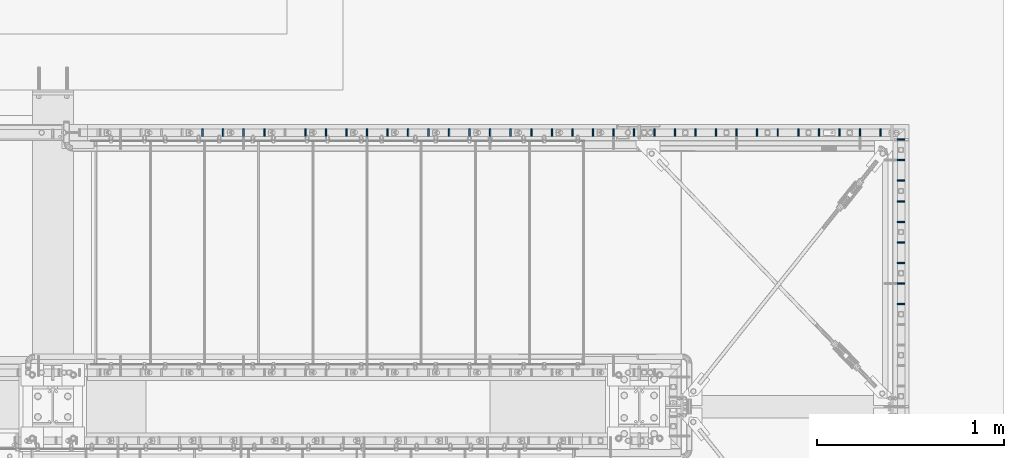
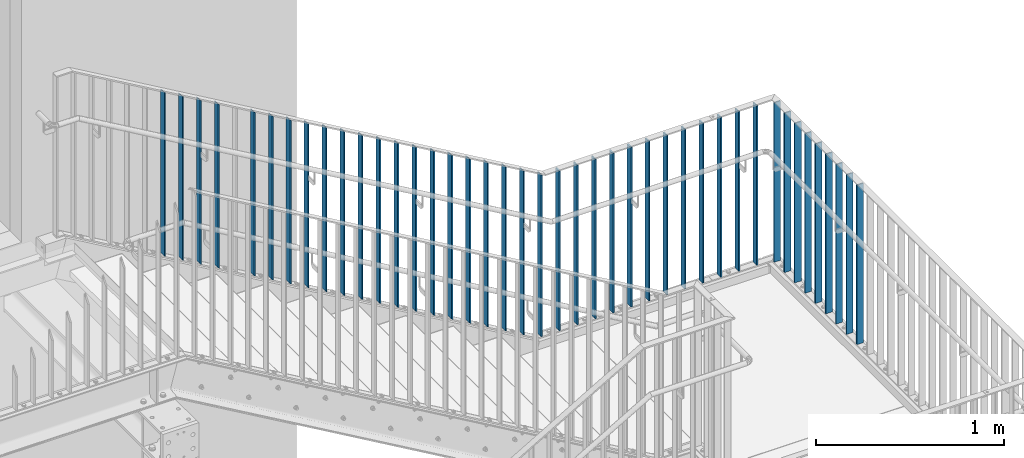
# One storey, part 4 of 145: 42 columns.
"""IFC2X3 building model written with IfcOpenShell, lengths in millimetres."""

from ifc_helpers import new_model, entity, si_unit, converted_unit, frame, origin, origin_with_axes, origin_2d, place, context, project, spatial, rectangle, extrude, clip, halfspace, material, element, save


model = new_model("IFC2X3")

# Units and contexts
model_context = context("Model", 3, precision=1e-09, world=origin_with_axes())
ifc_project = project(units=[si_unit("LENGTHUNIT", "METRE", prefix="MILLI"), si_unit("AREAUNIT", "SQUARE_METRE"), si_unit("VOLUMEUNIT", "CUBIC_METRE"), converted_unit("PLANEANGLEUNIT", "DEGREE", entity("IfcPlaneAngleMeasure", 0.01745329), si_unit("PLANEANGLEUNIT", "RADIAN"), dimensions=[0, 0, 0, 0, 0, 0, 0])], contexts=[model_context])

# Site, building, storey
site_placement = place(None, origin_with_axes())
site = spatial("IfcSite", under=ifc_project, at=site_placement, Name="BZ1 Grund- und Mittelschule 85716 Unterschlei?heim", CompositionType="ELEMENT")
building_placement = place(site_placement, origin_with_axes())
building = spatial("IfcBuilding", under=site, at=building_placement, Name="Struktur 1", CompositionType="ELEMENT")
storey_placement = place(building_placement, origin_with_axes())
storey = spatial("IfcBuildingStorey", under=building, at=storey_placement, Name="Default Storey", CompositionType="ELEMENT", Elevation=0.0)

# Columns
ifc_material = material(Name="S235JR")
for number, where, z_axis, x_axis in (
    (1, (21063.141490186, -227.502, 1621.636364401), (0.0, 0.0, 1.0), (1.0, 0.0, 0.0)),
    (2, (20953.141490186, -227.502, 1621.636364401), (0.0, 0.0, 1.0), (1.0, 0.0, 0.0)),
    (3, (20843.141490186, -227.502, 1621.636364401), (0.0, 0.0, 1.0), (1.0, 0.0, 0.0)),
    (4, (20733.141490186, -227.502, 1621.636364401), (0.0, 0.0, 1.0), (1.0, 0.0, 0.0)),
    (5, (20623.141490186, -227.502, 1621.636364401), (0.0, 0.0, 1.0), (1.0, 0.0, 0.0)),
    (6, (20513.141490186, -227.502, 1621.636364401), (0.0, 0.0, 1.0), (1.0, 0.0, 0.0)),
    (7, (20403.141490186, -227.502, 1621.636364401), (0.0, 0.0, 1.0), (1.0, 0.0, 0.0)),
    (8, (20293.141490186, -227.502, 1621.636364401), (0.0, 0.0, 1.0), (1.0, 0.0, 0.0)),
    (9, (21173.141490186, -227.502, 1621.636364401), (0.0, 0.0, 1.0), (1.0, 0.0, 0.0)),
    (10, (21283.141490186, -227.502, 1621.636364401), (0.0, 0.0, 1.0), (1.0, 0.0, 0.0)),
):
    element("IfcColumn", number, at=place(None, frame(where, z_axis=z_axis, x_axis=x_axis)), inside=storey, material=ifc_material, Name="-", ObjectType="-", context=model_context, shape_type="SweptSolid", body=[
        extrude(rectangle(XDim=8.0, YDim=40.0, at=origin_2d()), origin(), (0.0, 0.0, 1.0), 1033.999999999),
    ])
for number, where, z_axis, x_axis in (
    (11, (21613.34472732, -1035.002, 1621.636364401), (0.0, 0.0, -1.0), (0.0, 1.0, 0.0)),
    (12, (21613.34472732, -1145.002, 1621.636364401), (0.0, 0.0, -1.0), (0.0, 1.0, 0.0)),
    (13, (21613.34472732, -705.002, 1621.636364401), (0.0, 0.0, -1.0), (0.0, 1.0, 0.0)),
    (14, (21613.34472732, -815.002, 1621.636364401), (0.0, 0.0, -1.0), (0.0, 1.0, 0.0)),
    (15, (21613.34472732, -925.002, 1621.636364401), (0.0, 0.0, -1.0), (0.0, 1.0, 0.0)),
    (16, (21613.34472732, -375.002, 1621.636364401), (0.0, 0.0, -1.0), (0.0, 1.0, 0.0)),
    (17, (21613.34472732, -485.002, 1621.636364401), (0.0, 0.0, -1.0), (0.0, 1.0, 0.0)),
    (18, (21613.34472732, -595.002, 1621.636364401), (0.0, 0.0, -1.0), (0.0, 1.0, 0.0)),
    (19, (21613.34472732, -265.002, 1621.636364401), (0.0, 0.0, -1.0), (0.0, 1.0, 0.0)),
):
    element("IfcColumn", number, at=place(None, frame(where, z_axis=z_axis, x_axis=x_axis)), inside=storey, material=ifc_material, Name="-", ObjectType="-", context=model_context, shape_type="SweptSolid", body=[
        extrude(rectangle(XDim=8.0, YDim=40.0, at=origin_2d()), origin(), (0.0, 0.0, -1.0), 1033.999999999),
    ])
for number, where, z_axis, x_axis in (
    (20, (21393.141490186, -227.502, 1621.636364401), (0.0, 0.0, 1.0), (1.0, 0.0, 0.0)),
    (21, (21503.141490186, -227.502, 1621.636364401), (0.0, 0.0, 1.0), (1.0, 0.0, 0.0)),
):
    element("IfcColumn", number, at=place(None, frame(where, z_axis=z_axis, x_axis=x_axis)), inside=storey, material=ifc_material, Name="-", ObjectType="-", context=model_context, shape_type="SweptSolid", body=[
        extrude(rectangle(XDim=8.0, YDim=40.0, at=origin_2d()), origin(), (0.0, 0.0, 1.0), 1033.999999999),
    ])
column_1_placement = place(None, frame((18863.141490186, -227.502, 2350.839394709), z_axis=(0.0, 0.0, -1.0), x_axis=(-1.0, 0.0, 0.0)))
element("IfcColumn", 22, at=column_1_placement, inside=storey, material=ifc_material, Name="-", ObjectType="-", context=model_context, shape_type="Clipping", body=[
    clip(clip(extrude(rectangle(XDim=8.0, YDim=40.0, at=origin_2d()), origin(), (0.0, 0.0, -1.0), 1108.679153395), halfspace(frame((13064.623942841, 227.502, -7620.735255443), z_axis=(-0.502691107, 0.0, -0.864466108), x_axis=(0.0, 1.0, 0.0)), True)), halfspace(frame((12603.343827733, 227.502, -8413.987852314), z_axis=(0.502691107, 0.0, 0.864466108), x_axis=(0.0, -1.0, 0.0)), True)),
])
column_2_placement = place(None, frame((19413.141490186, -227.502, 2031.011808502), z_axis=(0.0, 0.0, -1.0), x_axis=(-1.0, 0.0, 0.0)))
element("IfcColumn", 23, at=column_2_placement, inside=storey, material=ifc_material, Name="-", ObjectType="-", context=model_context, shape_type="Clipping", body=[
    clip(clip(extrude(rectangle(XDim=8.0, YDim=40.0, at=origin_2d()), origin(), (0.0, 0.0, -1.0), 1108.679153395), halfspace(frame((13614.623942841, 227.502, -7940.56284165), z_axis=(-0.502691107, 0.0, -0.864466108), x_axis=(0.0, 1.0, 0.0)), True)), halfspace(frame((13153.343827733, 227.502, -8733.815438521), z_axis=(0.502691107, 0.0, 0.864466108), x_axis=(0.0, -1.0, 0.0)), True)),
])
column_3_placement = place(None, frame((19963.141490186, -227.502, 1711.184222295), z_axis=(0.0, 0.0, -1.0), x_axis=(-1.0, 0.0, 0.0)))
element("IfcColumn", 24, at=column_3_placement, inside=storey, material=ifc_material, Name="-", ObjectType="-", context=model_context, shape_type="Clipping", body=[
    clip(clip(extrude(rectangle(XDim=8.0, YDim=40.0, at=origin_2d()), origin(), (0.0, 0.0, -1.0), 1108.679153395), halfspace(frame((14164.623942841, 227.502, -8260.390427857), z_axis=(-0.502691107, 0.0, -0.864466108), x_axis=(0.0, 1.0, 0.0)), True)), halfspace(frame((13703.343827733, 227.502, -9053.643024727), z_axis=(0.502691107, 0.0, 0.864466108), x_axis=(0.0, -1.0, 0.0)), True)),
])
column_4_placement = place(None, frame((17873.141490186, -227.502, 2926.529049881), z_axis=(0.0, 0.0, -1.0), x_axis=(-1.0, 0.0, 0.0)))
element("IfcColumn", 25, at=column_4_placement, inside=storey, material=ifc_material, Name="-", ObjectType="-", context=model_context, shape_type="Clipping", body=[
    clip(clip(extrude(rectangle(XDim=8.0, YDim=40.0, at=origin_2d()), origin(), (0.0, 0.0, -1.0), 1108.679153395), halfspace(frame((12074.623942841, 227.502, -7045.045600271), z_axis=(-0.502691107, 0.0, -0.864466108), x_axis=(0.0, 1.0, 0.0)), True)), halfspace(frame((11613.343827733, 227.502, -7838.298197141), z_axis=(0.502691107, 0.0, 0.864466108), x_axis=(0.0, -1.0, 0.0)), True)),
])
column_5_placement = place(None, frame((20183.141490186, -227.502, 1621.636364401), z_axis=(0.0, 0.0, -1.0), x_axis=(-1.0, 0.0, 0.0)))
element("IfcColumn", 26, at=column_5_placement, inside=storey, material=ifc_material, Name="-", ObjectType="-", context=model_context, shape_type="Clipping", body=[
    clip(extrude(rectangle(XDim=8.0, YDim=40.0, at=origin_2d()), origin(), (0.0, 0.0, -1.0), 1070.295976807), halfspace(frame((13923.343827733, 227.502, -9143.190882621), z_axis=(0.502691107, 0.0, 0.864466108), x_axis=(0.0, -1.0, 0.0)), True)),
])
column_6_placement = place(None, frame((20073.141490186, -227.502, 1647.218705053), z_axis=(0.0, 0.0, -1.0), x_axis=(-1.0, 0.0, 0.0)))
element("IfcColumn", 27, at=column_6_placement, inside=storey, material=ifc_material, Name="-", ObjectType="-", context=model_context, shape_type="Clipping", body=[
    clip(clip(extrude(rectangle(XDim=8.0, YDim=40.0, at=origin_2d()), origin(), (0.0, 0.0, -1.0), 1108.679153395), halfspace(frame((14274.623942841, 227.502, -8324.355945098), z_axis=(-0.502691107, 0.0, -0.864466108), x_axis=(0.0, 1.0, 0.0)), True)), halfspace(frame((13813.343827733, 227.502, -9117.608541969), z_axis=(0.502691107, 0.0, 0.864466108), x_axis=(0.0, -1.0, 0.0)), True)),
])
column_7_placement = place(None, frame((19853.141490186, -227.502, 1775.149739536), z_axis=(0.0, 0.0, -1.0), x_axis=(-1.0, 0.0, 0.0)))
element("IfcColumn", 28, at=column_7_placement, inside=storey, material=ifc_material, Name="-", ObjectType="-", context=model_context, shape_type="Clipping", body=[
    clip(clip(extrude(rectangle(XDim=8.0, YDim=40.0, at=origin_2d()), origin(), (0.0, 0.0, -1.0), 1108.679153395), halfspace(frame((14054.623942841, 227.502, -8196.424910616), z_axis=(-0.502691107, 0.0, -0.864466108), x_axis=(0.0, 1.0, 0.0)), True)), halfspace(frame((13593.343827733, 227.502, -8989.677507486), z_axis=(0.502691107, 0.0, 0.864466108), x_axis=(0.0, -1.0, 0.0)), True)),
])
column_8_placement = place(None, frame((19743.141490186, -227.502, 1839.115256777), z_axis=(0.0, 0.0, -1.0), x_axis=(-1.0, 0.0, 0.0)))
element("IfcColumn", 29, at=column_8_placement, inside=storey, material=ifc_material, Name="-", ObjectType="-", context=model_context, shape_type="Clipping", body=[
    clip(clip(extrude(rectangle(XDim=8.0, YDim=40.0, at=origin_2d()), origin(), (0.0, 0.0, -1.0), 1108.679153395), halfspace(frame((13944.623942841, 227.502, -8132.459393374), z_axis=(-0.502691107, 0.0, -0.864466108), x_axis=(0.0, 1.0, 0.0)), True)), halfspace(frame((13483.343827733, 227.502, -8925.711990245), z_axis=(0.502691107, 0.0, 0.864466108), x_axis=(0.0, -1.0, 0.0)), True)),
])
column_9_placement = place(None, frame((19633.141490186, -227.502, 1903.080774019), z_axis=(0.0, 0.0, -1.0), x_axis=(-1.0, 0.0, 0.0)))
element("IfcColumn", 30, at=column_9_placement, inside=storey, material=ifc_material, Name="-", ObjectType="-", context=model_context, shape_type="Clipping", body=[
    clip(clip(extrude(rectangle(XDim=8.0, YDim=40.0, at=origin_2d()), origin(), (0.0, 0.0, -1.0), 1108.679153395), halfspace(frame((13834.623942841, 227.502, -8068.493876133), z_axis=(-0.502691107, 0.0, -0.864466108), x_axis=(0.0, 1.0, 0.0)), True)), halfspace(frame((13373.343827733, 227.502, -8861.746473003), z_axis=(0.502691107, 0.0, 0.864466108), x_axis=(0.0, -1.0, 0.0)), True)),
])
column_10_placement = place(None, frame((19523.141490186, -227.502, 1967.04629126), z_axis=(0.0, 0.0, -1.0), x_axis=(-1.0, 0.0, 0.0)))
element("IfcColumn", 31, at=column_10_placement, inside=storey, material=ifc_material, Name="-", ObjectType="-", context=model_context, shape_type="Clipping", body=[
    clip(clip(extrude(rectangle(XDim=8.0, YDim=40.0, at=origin_2d()), origin(), (0.0, 0.0, -1.0), 1108.679153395), halfspace(frame((13724.623942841, 227.502, -8004.528358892), z_axis=(-0.502691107, 0.0, -0.864466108), x_axis=(0.0, 1.0, 0.0)), True)), halfspace(frame((13263.343827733, 227.502, -8797.780955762), z_axis=(0.502691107, 0.0, 0.864466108), x_axis=(0.0, -1.0, 0.0)), True)),
])
column_11_placement = place(None, frame((19303.141490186, -227.502, 2094.977325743), z_axis=(0.0, 0.0, -1.0), x_axis=(-1.0, 0.0, 0.0)))
element("IfcColumn", 32, at=column_11_placement, inside=storey, material=ifc_material, Name="-", ObjectType="-", context=model_context, shape_type="Clipping", body=[
    clip(clip(extrude(rectangle(XDim=8.0, YDim=40.0, at=origin_2d()), origin(), (0.0, 0.0, -1.0), 1108.679153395), halfspace(frame((13504.623942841, 227.502, -7876.597324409), z_axis=(-0.502691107, 0.0, -0.864466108), x_axis=(0.0, 1.0, 0.0)), True)), halfspace(frame((13043.343827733, 227.502, -8669.849921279), z_axis=(0.502691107, 0.0, 0.864466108), x_axis=(0.0, -1.0, 0.0)), True)),
])
column_12_placement = place(None, frame((19193.141490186, -227.502, 2158.942842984), z_axis=(0.0, 0.0, -1.0), x_axis=(-1.0, 0.0, 0.0)))
element("IfcColumn", 33, at=column_12_placement, inside=storey, material=ifc_material, Name="-", ObjectType="-", context=model_context, shape_type="Clipping", body=[
    clip(clip(extrude(rectangle(XDim=8.0, YDim=40.0, at=origin_2d()), origin(), (0.0, 0.0, -1.0), 1108.679153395), halfspace(frame((13394.623942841, 227.502, -7812.631807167), z_axis=(-0.502691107, 0.0, -0.864466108), x_axis=(0.0, 1.0, 0.0)), True)), halfspace(frame((12933.343827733, 227.502, -8605.884404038), z_axis=(0.502691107, 0.0, 0.864466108), x_axis=(0.0, -1.0, 0.0)), True)),
])
column_13_placement = place(None, frame((19083.141490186, -227.502, 2222.908360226), z_axis=(0.0, 0.0, -1.0), x_axis=(-1.0, 0.0, 0.0)))
element("IfcColumn", 34, at=column_13_placement, inside=storey, material=ifc_material, Name="-", ObjectType="-", context=model_context, shape_type="Clipping", body=[
    clip(clip(extrude(rectangle(XDim=8.0, YDim=40.0, at=origin_2d()), origin(), (0.0, 0.0, -1.0), 1108.679153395), halfspace(frame((13284.623942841, 227.502, -7748.666289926), z_axis=(-0.502691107, 0.0, -0.864466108), x_axis=(0.0, 1.0, 0.0)), True)), halfspace(frame((12823.343827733, 227.502, -8541.918886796), z_axis=(0.502691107, 0.0, 0.864466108), x_axis=(0.0, -1.0, 0.0)), True)),
])
column_14_placement = place(None, frame((18973.141490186, -227.502, 2286.873877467), z_axis=(0.0, 0.0, -1.0), x_axis=(-1.0, 0.0, 0.0)))
element("IfcColumn", 35, at=column_14_placement, inside=storey, material=ifc_material, Name="-", ObjectType="-", context=model_context, shape_type="Clipping", body=[
    clip(clip(extrude(rectangle(XDim=8.0, YDim=40.0, at=origin_2d()), origin(), (0.0, 0.0, -1.0), 1108.679153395), halfspace(frame((13174.623942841, 227.502, -7684.700772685), z_axis=(-0.502691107, 0.0, -0.864466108), x_axis=(0.0, 1.0, 0.0)), True)), halfspace(frame((12713.343827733, 227.502, -8477.953369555), z_axis=(0.502691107, 0.0, 0.864466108), x_axis=(0.0, -1.0, 0.0)), True)),
])
column_15_placement = place(None, frame((18753.141490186, -227.502, 2414.80491195), z_axis=(0.0, 0.0, -1.0), x_axis=(-1.0, 0.0, 0.0)))
element("IfcColumn", 36, at=column_15_placement, inside=storey, material=ifc_material, Name="-", ObjectType="-", context=model_context, shape_type="Clipping", body=[
    clip(clip(extrude(rectangle(XDim=8.0, YDim=40.0, at=origin_2d()), origin(), (0.0, 0.0, -1.0), 1108.679153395), halfspace(frame((12954.623942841, 227.502, -7556.769738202), z_axis=(-0.502691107, 0.0, -0.864466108), x_axis=(0.0, 1.0, 0.0)), True)), halfspace(frame((12493.343827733, 227.502, -8350.022335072), z_axis=(0.502691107, 0.0, 0.864466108), x_axis=(0.0, -1.0, 0.0)), True)),
])
column_16_placement = place(None, frame((18643.141490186, -227.502, 2478.770429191), z_axis=(0.0, 0.0, -1.0), x_axis=(-1.0, 0.0, 0.0)))
element("IfcColumn", 37, at=column_16_placement, inside=storey, material=ifc_material, Name="-", ObjectType="-", context=model_context, shape_type="Clipping", body=[
    clip(clip(extrude(rectangle(XDim=8.0, YDim=40.0, at=origin_2d()), origin(), (0.0, 0.0, -1.0), 1108.679153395), halfspace(frame((12844.623942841, 227.502, -7492.804220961), z_axis=(-0.502691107, 0.0, -0.864466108), x_axis=(0.0, 1.0, 0.0)), True)), halfspace(frame((12383.343827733, 227.502, -8286.056817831), z_axis=(0.502691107, 0.0, 0.864466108), x_axis=(0.0, -1.0, 0.0)), True)),
])
column_17_placement = place(None, frame((18533.141490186, -227.502, 2542.735946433), z_axis=(0.0, 0.0, -1.0), x_axis=(-1.0, 0.0, 0.0)))
element("IfcColumn", 38, at=column_17_placement, inside=storey, material=ifc_material, Name="-", ObjectType="-", context=model_context, shape_type="Clipping", body=[
    clip(clip(extrude(rectangle(XDim=8.0, YDim=40.0, at=origin_2d()), origin(), (0.0, 0.0, -1.0), 1108.679153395), halfspace(frame((12734.623942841, 227.502, -7428.838703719), z_axis=(-0.502691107, 0.0, -0.864466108), x_axis=(0.0, 1.0, 0.0)), True)), halfspace(frame((12273.343827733, 227.502, -8222.09130059), z_axis=(0.502691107, 0.0, 0.864466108), x_axis=(0.0, -1.0, 0.0)), True)),
])
column_18_placement = place(None, frame((18423.141490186, -227.502, 2606.701463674), z_axis=(0.0, 0.0, -1.0), x_axis=(-1.0, 0.0, 0.0)))
element("IfcColumn", 39, at=column_18_placement, inside=storey, material=ifc_material, Name="-", ObjectType="-", context=model_context, shape_type="Clipping", body=[
    clip(clip(extrude(rectangle(XDim=8.0, YDim=40.0, at=origin_2d()), origin(), (0.0, 0.0, -1.0), 1108.679153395), halfspace(frame((12624.623942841, 227.502, -7364.873186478), z_axis=(-0.502691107, 0.0, -0.864466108), x_axis=(0.0, 1.0, 0.0)), True)), halfspace(frame((12163.343827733, 227.502, -8158.125783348), z_axis=(0.502691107, 0.0, 0.864466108), x_axis=(0.0, -1.0, 0.0)), True)),
])
column_19_placement = place(None, frame((18203.141490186, -227.502, 2734.632498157), z_axis=(0.0, 0.0, -1.0), x_axis=(-1.0, 0.0, 0.0)))
element("IfcColumn", 40, at=column_19_placement, inside=storey, material=ifc_material, Name="-", ObjectType="-", context=model_context, shape_type="Clipping", body=[
    clip(clip(extrude(rectangle(XDim=8.0, YDim=40.0, at=origin_2d()), origin(), (0.0, 0.0, -1.0), 1108.679153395), halfspace(frame((12404.623942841, 227.502, -7236.942151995), z_axis=(-0.502691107, 0.0, -0.864466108), x_axis=(0.0, 1.0, 0.0)), True)), halfspace(frame((11943.343827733, 227.502, -8030.194748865), z_axis=(0.502691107, 0.0, 0.864466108), x_axis=(0.0, -1.0, 0.0)), True)),
])
column_20_placement = place(None, frame((18093.141490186, -227.502, 2798.598015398), z_axis=(0.0, 0.0, -1.0), x_axis=(-1.0, 0.0, 0.0)))
element("IfcColumn", 41, at=column_20_placement, inside=storey, material=ifc_material, Name="-", ObjectType="-", context=model_context, shape_type="Clipping", body=[
    clip(clip(extrude(rectangle(XDim=8.0, YDim=40.0, at=origin_2d()), origin(), (0.0, 0.0, -1.0), 1108.679153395), halfspace(frame((12294.623942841, 227.502, -7172.976634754), z_axis=(-0.502691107, 0.0, -0.864466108), x_axis=(0.0, 1.0, 0.0)), True)), halfspace(frame((11833.343827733, 227.502, -7966.229231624), z_axis=(0.502691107, 0.0, 0.864466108), x_axis=(0.0, -1.0, 0.0)), True)),
])
column_21_placement = place(None, frame((17983.141490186, -227.502, 2862.56353264), z_axis=(0.0, 0.0, -1.0), x_axis=(-1.0, 0.0, 0.0)))
element("IfcColumn", 42, at=column_21_placement, inside=storey, material=ifc_material, Name="-", ObjectType="-", context=model_context, shape_type="Clipping", body=[
    clip(clip(extrude(rectangle(XDim=8.0, YDim=40.0, at=origin_2d()), origin(), (0.0, 0.0, -1.0), 1108.679153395), halfspace(frame((12184.623942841, 227.502, -7109.011117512), z_axis=(-0.502691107, 0.0, -0.864466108), x_axis=(0.0, 1.0, 0.0)), True)), halfspace(frame((11723.343827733, 227.502, -7902.263714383), z_axis=(0.502691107, 0.0, 0.864466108), x_axis=(0.0, -1.0, 0.0)), True)),
])

save(model, "model.ifc")
